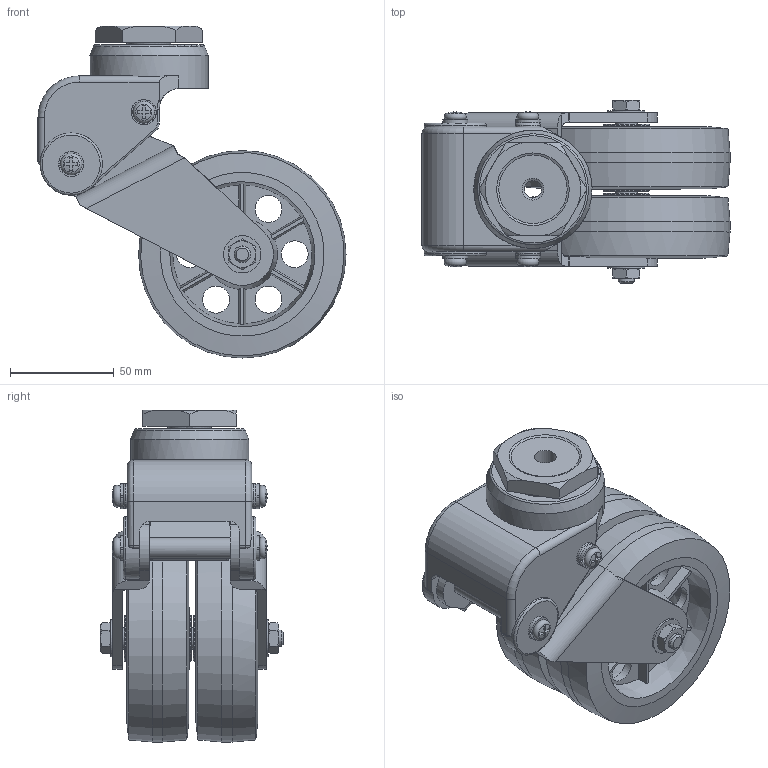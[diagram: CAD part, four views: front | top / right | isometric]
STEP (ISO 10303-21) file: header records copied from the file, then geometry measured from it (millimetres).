
FILE_DESCRIPTION((''),'2;1');
FILE_NAME('C:\Documents and Settings\Administrator\바탕 화면\3D STEP\GDS-SERIES\GDSD-100\GDSD-100A-RS.stp','2010-12-27T13:59:42',('Administrator'),(''),'Autodesk Inventor 2009','Autodesk Inventor 2009','');
FILE_SCHEMA(('AUTOMOTIVE_DESIGN { 1 0 10303 214 1 1 1 1 }'));
Length unit declared in the file: millimetre
Products named in the file (1): GDSD-100A-RS
Bounding box: 148.5 x 88.3 x 160.05 mm (x, y, z)
Volume: 167666.1 mm3; surface area: 137041.1 mm2
Topology: 45 solids, 77 shells, 816 faces, 2152 edges, 1372 vertices
Faces by surface type: plane 408, cylinder 143, cone 84, sphere 73, torus 63, bspline 45
Full cylindrical faces by diameter (mm): 6 x6, 7.94 x2, 8 x6, 8.2 x4, 8.4 x1, 8.5 x2, 10 x2, 10.1 x2, 10.2 x2, 10.4 x3, 10.5 x1, 12 x10, 13 x12, 18 x10, 20 x4, 21 x1, 22 x7, 25 x1, 25.5 x1, 27 x1, 30 x2, 39 x1, 39.4 x1, 40.2 x1, 40.4 x1, 57 x1, 100 x2
Entity records: 24206 total; most frequent: CARTESIAN_POINT 5442, DIRECTION 4077, ORIENTED_EDGE 3570, EDGE_CURVE 1785, AXIS2_PLACEMENT_3D 1731, VERTEX_POINT 1271, EDGE_LOOP 1099, CIRCLE 851
